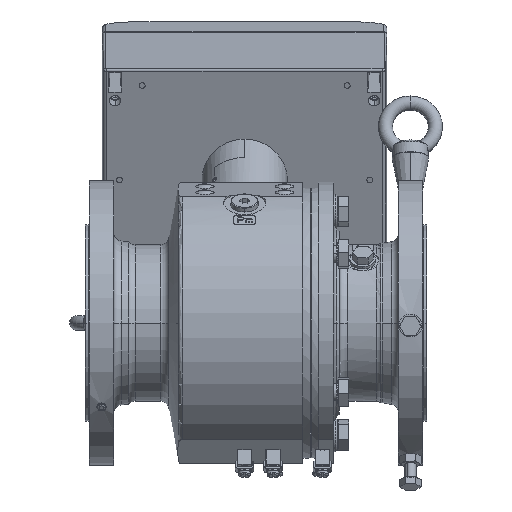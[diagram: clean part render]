
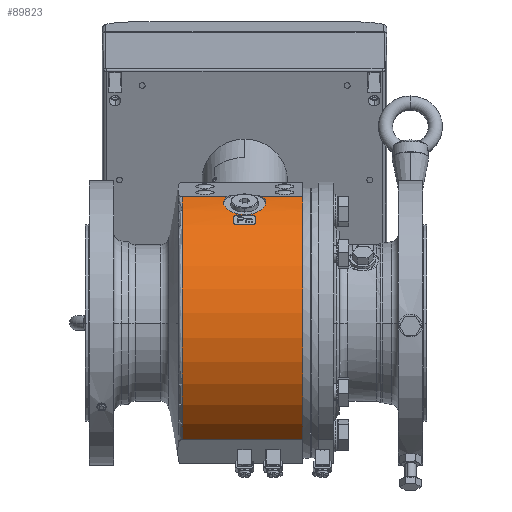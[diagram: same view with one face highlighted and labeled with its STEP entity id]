
A CAD part, front view. The second image highlights one B-rep face of the part: STEP entity #89823.
In plain terms, the highlighted cylindrical face has radius 99 mm (diameter 198 mm), a partial arc.
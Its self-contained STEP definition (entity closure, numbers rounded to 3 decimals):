
#17620=DIRECTION('',(-1.,0.,0.));
#17621=VECTOR('',#17620,28.404);
#17622=CARTESIAN_POINT('',(41.,-43.834,88.767));
#17623=LINE('4612',#17622,#17621);
#17627=CARTESIAN_POINT('',(41.,0.,0.));
#17628=DIRECTION('',(1.,0.,0.));
#17629=DIRECTION('',(0.,-0.443,0.897));
#17630=AXIS2_PLACEMENT_3D('',#17627,#17628,#17629);
#17635=DIRECTION('',(-1.,0.,0.));
#17636=VECTOR('',#17635,84.724);
#17637=CARTESIAN_POINT('',(41.,-55.85,-81.742));
#17638=LINE('4603',#17637,#17636);
#17642=DIRECTION('',(-1.,0.,0.));
#17643=VECTOR('',#17642,31.128);
#17644=CARTESIAN_POINT('',(-12.596,-43.834,
88.767));
#17645=LINE('4613',#17644,#17643);
#17994=CARTESIAN_POINT('',(-43.724,0.,0.));
#17995=DIRECTION('',(1.,0.,0.));
#17996=DIRECTION('',(0.,-0.443,0.897));
#17997=AXIS2_PLACEMENT_3D('',#17994,#17995,#17996);
#32592=CARTESIAN_POINT('',(12.596,-43.834,
88.767));
#32593=CARTESIAN_POINT('',(12.748,-44.045,
88.663));
#32594=CARTESIAN_POINT('',(13.038,-44.474,
88.449));
#32595=CARTESIAN_POINT('',(13.433,-45.135,
88.113));
#32596=CARTESIAN_POINT('',(13.785,-45.811,
87.764));
#32597=CARTESIAN_POINT('',(14.094,-46.5,
87.401));
#32598=CARTESIAN_POINT('',(14.359,-47.198,
87.026));
#32599=CARTESIAN_POINT('',(14.579,-47.905,
86.639));
#32600=CARTESIAN_POINT('',(14.754,-48.616,
86.242));
#32601=CARTESIAN_POINT('',(14.884,-49.332,
85.835));
#32602=CARTESIAN_POINT('',(14.968,-50.048,
85.419));
#32603=CARTESIAN_POINT('',(15.005,-50.764,
84.996));
#32604=CARTESIAN_POINT('',(14.997,-51.477,
84.566));
#32605=CARTESIAN_POINT('',(14.942,-52.184,
84.131));
#32606=CARTESIAN_POINT('',(14.842,-52.886,
83.692));
#32607=CARTESIAN_POINT('',(14.695,-53.577,
83.251));
#32608=CARTESIAN_POINT('',(14.503,-54.258,
82.809));
#32609=CARTESIAN_POINT('',(14.266,-54.926,
82.367));
#32610=CARTESIAN_POINT('',(13.985,-55.58,
81.927));
#32611=CARTESIAN_POINT('',(13.66,-56.217,
81.491));
#32612=CARTESIAN_POINT('',(13.292,-56.836,
81.061));
#32613=CARTESIAN_POINT('',(12.882,-57.435,
80.637));
#32614=CARTESIAN_POINT('',(12.432,-58.011,
80.224));
#32615=CARTESIAN_POINT('',(11.942,-58.565,
79.82));
#32616=CARTESIAN_POINT('',(11.415,-59.093,
79.43));
#32617=CARTESIAN_POINT('',(10.851,-59.595,
79.054));
#32618=CARTESIAN_POINT('',(10.254,-60.069,
78.695));
#32619=CARTESIAN_POINT('',(9.625,-60.513,
78.353));
#32620=CARTESIAN_POINT('',(8.965,-60.927,
78.032));
#32621=CARTESIAN_POINT('',(8.279,-61.31,
77.732));
#32622=CARTESIAN_POINT('',(7.566,-61.66,
77.454));
#32623=CARTESIAN_POINT('',(6.831,-61.977,
77.201));
#32624=CARTESIAN_POINT('',(6.075,-62.26,
76.972));
#32625=CARTESIAN_POINT('',(5.301,-62.508,
76.771));
#32626=CARTESIAN_POINT('',(4.512,-62.722,
76.596));
#32627=CARTESIAN_POINT('',(3.709,-62.901,
76.449));
#32628=CARTESIAN_POINT('',(2.896,-63.044,
76.331));
#32629=CARTESIAN_POINT('',(2.074,-63.151,
76.242));
#32630=CARTESIAN_POINT('',(1.247,-63.223,
76.183));
#32631=CARTESIAN_POINT('',(0.416,-63.259,
76.153));
#32632=CARTESIAN_POINT('',(-0.416,-63.259,
76.153));
#32633=CARTESIAN_POINT('',(-1.247,-63.223,
76.183));
#32634=CARTESIAN_POINT('',(-2.074,-63.151,
76.242));
#32635=CARTESIAN_POINT('',(-2.896,-63.044,
76.331));
#32636=CARTESIAN_POINT('',(-3.709,-62.901,
76.449));
#32637=CARTESIAN_POINT('',(-4.512,-62.722,
76.596));
#32638=CARTESIAN_POINT('',(-5.301,-62.508,
76.771));
#32639=CARTESIAN_POINT('',(-6.075,-62.26,
76.972));
#32640=CARTESIAN_POINT('',(-6.831,-61.977,
77.201));
#32641=CARTESIAN_POINT('',(-7.566,-61.66,
77.454));
#32642=CARTESIAN_POINT('',(-8.279,-61.31,
77.732));
#32643=CARTESIAN_POINT('',(-8.965,-60.927,
78.032));
#32644=CARTESIAN_POINT('',(-9.625,-60.513,
78.353));
#32645=CARTESIAN_POINT('',(-10.254,-60.069,
78.695));
#32646=CARTESIAN_POINT('',(-10.851,-59.595,
79.054));
#32647=CARTESIAN_POINT('',(-11.415,-59.093,
79.43));
#32648=CARTESIAN_POINT('',(-11.942,-58.565,
79.82));
#32649=CARTESIAN_POINT('',(-12.432,-58.011,
80.224));
#32650=CARTESIAN_POINT('',(-12.882,-57.435,
80.637));
#32651=CARTESIAN_POINT('',(-13.292,-56.836,
81.061));
#32652=CARTESIAN_POINT('',(-13.66,-56.217,
81.491));
#32653=CARTESIAN_POINT('',(-13.985,-55.58,
81.927));
#32654=CARTESIAN_POINT('',(-14.266,-54.926,
82.367));
#32655=CARTESIAN_POINT('',(-14.503,-54.258,
82.809));
#32656=CARTESIAN_POINT('',(-14.695,-53.577,
83.251));
#32657=CARTESIAN_POINT('',(-14.842,-52.886,
83.692));
#32658=CARTESIAN_POINT('',(-14.942,-52.184,
84.131));
#32659=CARTESIAN_POINT('',(-14.997,-51.477,
84.566));
#32660=CARTESIAN_POINT('',(-15.005,-50.764,
84.996));
#32661=CARTESIAN_POINT('',(-14.968,-50.048,
85.419));
#32662=CARTESIAN_POINT('',(-14.884,-49.332,
85.835));
#32663=CARTESIAN_POINT('',(-14.754,-48.616,
86.242));
#32664=CARTESIAN_POINT('',(-14.579,-47.905,
86.639));
#32665=CARTESIAN_POINT('',(-14.359,-47.198,
87.026));
#32666=CARTESIAN_POINT('',(-14.094,-46.5,
87.401));
#32667=CARTESIAN_POINT('',(-13.785,-45.811,
87.764));
#32668=CARTESIAN_POINT('',(-13.433,-45.135,
88.113));
#32669=CARTESIAN_POINT('',(-13.038,-44.474,
88.449));
#32670=CARTESIAN_POINT('',(-12.748,-44.045,
88.663));
#32671=CARTESIAN_POINT('',(-12.596,-43.834,
88.767));
#68155=CARTESIAN_POINT('',(41.,-55.85,-81.742));
#68156=CARTESIAN_POINT('',(-43.724,-55.85,
-81.742));
#68157=VERTEX_POINT('',#68155);
#68158=VERTEX_POINT('',#68156);
#68163=CARTESIAN_POINT('',(41.,-43.834,88.767));
#68164=CARTESIAN_POINT('',(12.596,-43.834,
88.767));
#68165=VERTEX_POINT('',#68163);
#68166=VERTEX_POINT('',#68164);
#68167=CARTESIAN_POINT('',(-12.596,-43.834,
88.767));
#68168=CARTESIAN_POINT('',(-43.724,-43.834,
88.767));
#68169=VERTEX_POINT('',#68167);
#68170=VERTEX_POINT('',#68168);
#89806=CARTESIAN_POINT('',(58.3,0.,0.));
#89807=DIRECTION('',(-1.,0.,0.));
#89808=DIRECTION('',(0.,1.,0.));
#89809=AXIS2_PLACEMENT_3D('',#89806,#89807,#89808);
#89810=CYLINDRICAL_SURFACE('4006',#89809,99.);
#89811=ORIENTED_EDGE('4612',*,*,#89753,.F.);
#89813=ORIENTED_EDGE('4617',*,*,#89812,.T.);
#89815=ORIENTED_EDGE('4603',*,*,#89814,.T.);
#89817=ORIENTED_EDGE('4619',*,*,#89816,.F.);
#89818=ORIENTED_EDGE('4613',*,*,#89761,.F.);
#89820=ORIENTED_EDGE('4641',*,*,#89819,.F.);
#89821=EDGE_LOOP('4006',(#89811,#89813,#89815,#89817,#89818,#89820));
#89822=FACE_OUTER_BOUND('4006',#89821,.F.);
#17631=CIRCLE('4617',#17630,99.);
#17998=CIRCLE('4619',#17997,99.);
#32672=B_SPLINE_CURVE_WITH_KNOTS('4641',3,(#32592,#32593,#32594,#32595,#32596,
#32597,#32598,#32599,#32600,#32601,#32602,#32603,#32604,#32605,#32606,#32607,
#32608,#32609,#32610,#32611,#32612,#32613,#32614,#32615,#32616,#32617,#32618,
#32619,#32620,#32621,#32622,#32623,#32624,#32625,#32626,#32627,#32628,#32629,
#32630,#32631,#32632,#32633,#32634,#32635,#32636,#32637,#32638,#32639,#32640,
#32641,#32642,#32643,#32644,#32645,#32646,#32647,#32648,#32649,#32650,#32651,
#32652,#32653,#32654,#32655,#32656,#32657,#32658,#32659,#32660,#32661,#32662,
#32663,#32664,#32665,#32666,#32667,#32668,#32669,#32670,#32671),.UNSPECIFIED.,
.F.,.F.,(4,1,1,1,1,1,1,1,1,1,1,1,1,1,1,1,1,1,1,1,1,1,1,1,1,1,1,1,1,1,1,1,1,1,1,
1,1,1,1,1,1,1,1,1,1,1,1,1,1,1,1,1,1,1,1,1,1,1,1,1,1,1,1,1,1,1,1,1,1,1,1,1,1,1,1,
1,1,4),(0.,0.013,0.026,0.039,
0.052,0.065,0.078,0.091,
0.104,0.117,0.13,0.143,
0.156,0.169,0.182,0.195,
0.208,0.221,0.234,0.247,
0.26,0.273,0.286,0.299,
0.312,0.325,0.338,0.351,
0.364,0.377,0.39,0.403,
0.416,0.429,0.442,0.455,
0.468,0.481,0.494,0.506,
0.519,0.532,0.545,0.558,
0.571,0.584,0.597,0.61,
0.623,0.636,0.649,0.662,
0.675,0.688,0.701,0.714,
0.727,0.74,0.753,0.766,
0.779,0.792,0.805,0.818,
0.831,0.844,0.857,0.87,
0.883,0.896,0.909,0.922,
0.935,0.948,0.961,0.974,
0.987,1.),.UNSPECIFIED.);
#89753=EDGE_CURVE('4612',#68165,#68166,#17623,.T.);
#89761=EDGE_CURVE('4613',#68169,#68170,#17645,.T.);
#89812=EDGE_CURVE('4617',#68165,#68157,#17631,.T.);
#89814=EDGE_CURVE('4603',#68157,#68158,#17638,.T.);
#89816=EDGE_CURVE('4619',#68170,#68158,#17998,.T.);
#89819=EDGE_CURVE('4641',#68166,#68169,#32672,.T.);
#89823=ADVANCED_FACE('4006',(#89822),#89810,.T.);
